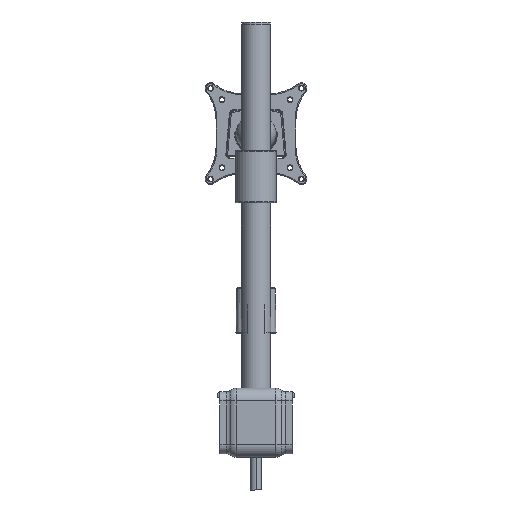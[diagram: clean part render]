
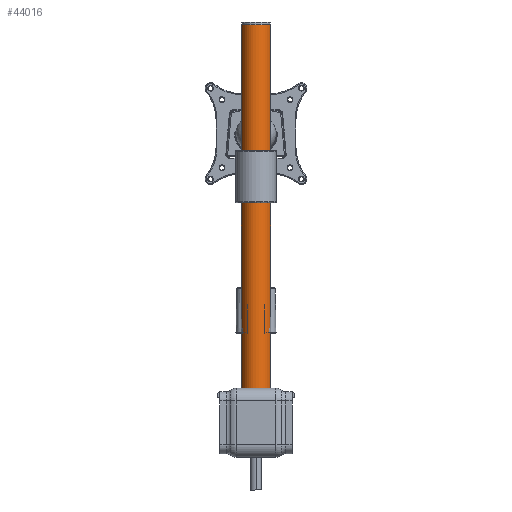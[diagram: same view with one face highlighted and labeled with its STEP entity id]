
A CAD part, front view. The second image highlights one B-rep face of the part: STEP entity #44016.
In plain terms, the highlighted cylindrical face has radius 16 mm (diameter 32 mm), a partial arc.
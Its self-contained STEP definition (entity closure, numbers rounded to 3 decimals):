
#3581 = DIRECTION ( 'NONE',  ( -1., 0., 0. ) ) ;
#6479 = ORIENTED_EDGE ( 'NONE', *, *, #38257, .T. ) ;
#8017 = CARTESIAN_POINT ( 'NONE',  ( -426.693, -30.669, 113.361 ) ) ;
#8177 = AXIS2_PLACEMENT_3D ( 'NONE', #38722, #12154, #43195 ) ;
#8285 = VERTEX_POINT ( 'NONE', #32261 ) ;
#10358 = EDGE_CURVE ( 'NONE', #28385, #11078, #53027, .T. ) ;
#11078 = VERTEX_POINT ( 'NONE', #53999 ) ;
#11418 = DIRECTION ( 'NONE',  ( 0., 0., -1. ) ) ;
#12154 = DIRECTION ( 'NONE',  ( 0., 0., 1. ) ) ;
#13615 = CARTESIAN_POINT ( 'NONE',  ( -410.693, -30.669, 113.361 ) ) ;
#15187 = EDGE_CURVE ( 'NONE', #8285, #11078, #22908, .T. ) ;
#15203 = LINE ( 'NONE', #20346, #27034 ) ;
#16848 = CIRCLE ( 'NONE', #53650, 16. ) ;
#20346 = CARTESIAN_POINT ( 'NONE',  ( -442.693, -30.669, 113.361 ) ) ;
#21685 = CYLINDRICAL_SURFACE ( 'NONE', #31703, 16. ) ;
#22585 = ORIENTED_EDGE ( 'NONE', *, *, #10358, .F. ) ;
#22908 = CIRCLE ( 'NONE', #8177, 16. ) ;
#23050 = FACE_OUTER_BOUND ( 'NONE', #53428, .T. ) ;
#24328 = DIRECTION ( 'NONE',  ( 0., 0., -1. ) ) ;
#24440 = CARTESIAN_POINT ( 'NONE',  ( -442.693, -30.669, 72.379 ) ) ;
#26481 = CARTESIAN_POINT ( 'NONE',  ( -410.693, -30.669, 72.379 ) ) ;
#27011 = DIRECTION ( 'NONE',  ( 0., 0., -1. ) ) ;
#27034 = VECTOR ( 'NONE', #11418, 1000. ) ;
#28385 = VERTEX_POINT ( 'NONE', #26481 ) ;
#30151 = DIRECTION ( 'NONE',  ( 0., 0., -1. ) ) ;
#31703 = AXIS2_PLACEMENT_3D ( 'NONE', #8017, #30151, #3581 ) ;
#32261 = CARTESIAN_POINT ( 'NONE',  ( -442.693, -30.669, -327.621 ) ) ;
#35296 = VERTEX_POINT ( 'NONE', #24440 ) ;
#38257 = EDGE_CURVE ( 'NONE', #35296, #8285, #15203, .T. ) ;
#38722 = CARTESIAN_POINT ( 'NONE',  ( -426.693, -30.669, -327.621 ) ) ;
#43195 = DIRECTION ( 'NONE',  ( -1., 0., 0. ) ) ;
#43908 = EDGE_CURVE ( 'NONE', #28385, #35296, #16848, .T. ) ;
#44016 = ADVANCED_FACE ( 'NONE', ( #23050 ), #21685, .T. ) ;
#47708 = ORIENTED_EDGE ( 'NONE', *, *, #15187, .T. ) ;
#50906 = CARTESIAN_POINT ( 'NONE',  ( -426.693, -30.669, 72.379 ) ) ;
#51622 = VECTOR ( 'NONE', #27011, 1000. ) ;
#53027 = LINE ( 'NONE', #13615, #51622 ) ;
#53088 = ORIENTED_EDGE ( 'NONE', *, *, #43908, .T. ) ;
#53428 = EDGE_LOOP ( 'NONE', ( #22585, #53088, #6479, #47708 ) ) ;
#53650 = AXIS2_PLACEMENT_3D ( 'NONE', #50906, #24328, #55385 ) ;
#53999 = CARTESIAN_POINT ( 'NONE',  ( -410.693, -30.669, -327.621 ) ) ;
#55385 = DIRECTION ( 'NONE',  ( -1., 0., 0. ) ) ;
